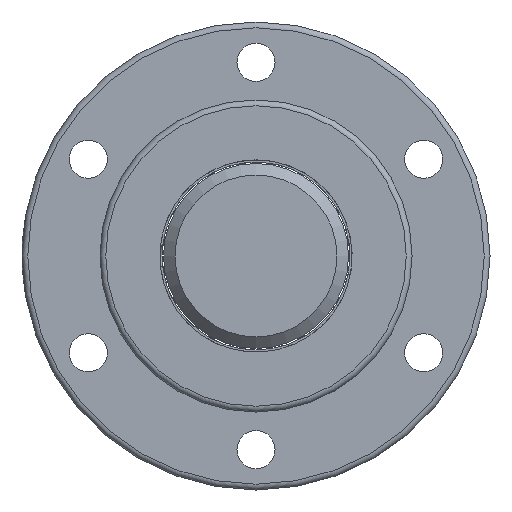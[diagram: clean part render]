
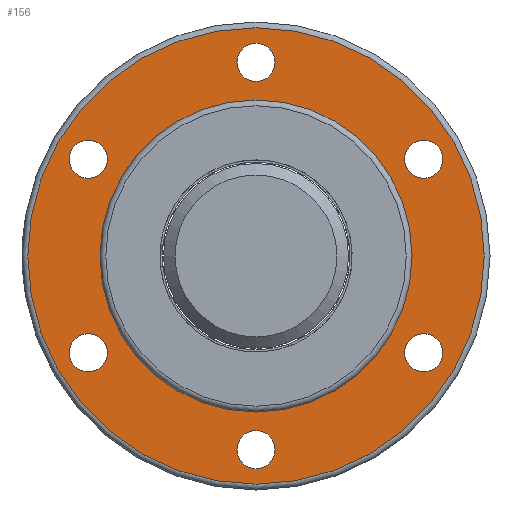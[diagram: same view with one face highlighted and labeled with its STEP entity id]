
A CAD part, left-side view. The second image highlights one B-rep face of the part: STEP entity #156.
In plain terms, the highlighted planar face has unit normal (-1, 0, 0).
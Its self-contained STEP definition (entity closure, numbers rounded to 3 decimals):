
#18 = CARTESIAN_POINT ( 'NONE',  ( 17.5, -31.87, -18.4 ) ) ;
#63 = DIRECTION ( 'NONE',  ( 0., 0., 1. ) ) ;
#70 = EDGE_LOOP ( 'NONE', ( #840 ) ) ;
#138 = DIRECTION ( 'NONE',  ( 1., 0., 0. ) ) ;
#153 = DIRECTION ( 'NONE',  ( 0., -0.866, -0.5 ) ) ;
#156 = ADVANCED_FACE ( 'NONE', ( #2004, #1313, #1759, #1357, #1787, #2241, #2633, #2018 ), #692, .F. ) ;
#167 = EDGE_CURVE ( 'NONE', #397, #397, #2343, .T. ) ;
#205 = AXIS2_PLACEMENT_3D ( 'NONE', #2801, #638, #2817 ) ;
#220 = ORIENTED_EDGE ( 'NONE', *, *, #749, .F. ) ;
#260 = CIRCLE ( 'NONE', #2262, 27. ) ;
#261 = CARTESIAN_POINT ( 'NONE',  ( 17.5, 0., 36.8 ) ) ;
#275 = CARTESIAN_POINT ( 'NONE',  ( 17.5, 0., 0. ) ) ;
#335 = DIRECTION ( 'NONE',  ( -1., 0., 0. ) ) ;
#369 = DIRECTION ( 'NONE',  ( 1., 0., 0. ) ) ;
#397 = VERTEX_POINT ( 'NONE', #2548 ) ;
#412 = EDGE_CURVE ( 'NONE', #605, #605, #1926, .T. ) ;
#509 = AXIS2_PLACEMENT_3D ( 'NONE', #2007, #970, #1792 ) ;
#569 = CIRCLE ( 'NONE', #509, 3.3 ) ;
#605 = VERTEX_POINT ( 'NONE', #1662 ) ;
#632 = CARTESIAN_POINT ( 'NONE',  ( 17.5, 0., -36.8 ) ) ;
#638 = DIRECTION ( 'NONE',  ( 1., 0., 0. ) ) ;
#692 = PLANE ( 'NONE',  #2309 ) ;
#706 = VERTEX_POINT ( 'NONE', #261 ) ;
#729 = EDGE_CURVE ( 'NONE', #2560, #2560, #2760, .T. ) ;
#749 = EDGE_CURVE ( 'NONE', #1248, #1248, #260, .T. ) ;
#832 = AXIS2_PLACEMENT_3D ( 'NONE', #2782, #1212, #2537 ) ;
#840 = ORIENTED_EDGE ( 'NONE', *, *, #2676, .T. ) ;
#866 = EDGE_LOOP ( 'NONE', ( #1166 ) ) ;
#955 = ORIENTED_EDGE ( 'NONE', *, *, #1666, .T. ) ;
#970 = DIRECTION ( 'NONE',  ( 1., 0., 0. ) ) ;
#972 = CIRCLE ( 'NONE', #205, 3.3 ) ;
#1096 = DIRECTION ( 'NONE',  ( 1., 0., 0. ) ) ;
#1166 = ORIENTED_EDGE ( 'NONE', *, *, #2743, .T. ) ;
#1212 = DIRECTION ( 'NONE',  ( 1., 0., 0. ) ) ;
#1248 = VERTEX_POINT ( 'NONE', #1891 ) ;
#1261 = EDGE_LOOP ( 'NONE', ( #1634 ) ) ;
#1286 = VERTEX_POINT ( 'NONE', #18 ) ;
#1313 = FACE_BOUND ( 'NONE', #866, .T. ) ;
#1354 = DIRECTION ( 'NONE',  ( 0., 0.866, 0.5 ) ) ;
#1357 = FACE_OUTER_BOUND ( 'NONE', #1773, .T. ) ;
#1405 = CIRCLE ( 'NONE', #832, 3.3 ) ;
#1434 = CIRCLE ( 'NONE', #2424, 3.3 ) ;
#1501 = CARTESIAN_POINT ( 'NONE',  ( 17.5, 29.012, -16.75 ) ) ;
#1547 = EDGE_LOOP ( 'NONE', ( #1563 ) ) ;
#1563 = ORIENTED_EDGE ( 'NONE', *, *, #412, .T. ) ;
#1618 = DIRECTION ( 'NONE',  ( 0., 0., -1. ) ) ;
#1634 = ORIENTED_EDGE ( 'NONE', *, *, #729, .T. ) ;
#1662 = CARTESIAN_POINT ( 'NONE',  ( 17.5, 31.87, -18.4 ) ) ;
#1666 = EDGE_CURVE ( 'NONE', #2740, #2740, #972, .T. ) ;
#1674 = CARTESIAN_POINT ( 'NONE',  ( 17.5, 0., 0. ) ) ;
#1743 = CARTESIAN_POINT ( 'NONE',  ( 17.5, -31.87, 18.4 ) ) ;
#1759 = FACE_BOUND ( 'NONE', #2755, .T. ) ;
#1771 = CARTESIAN_POINT ( 'NONE',  ( 17.5, 29.012, 16.75 ) ) ;
#1773 = EDGE_LOOP ( 'NONE', ( #2770 ) ) ;
#1787 = FACE_BOUND ( 'NONE', #2692, .T. ) ;
#1792 = DIRECTION ( 'NONE',  ( 0., 0., 1. ) ) ;
#1831 = CARTESIAN_POINT ( 'NONE',  ( 17.5, 27., 0. ) ) ;
#1850 = ORIENTED_EDGE ( 'NONE', *, *, #2721, .T. ) ;
#1864 = EDGE_LOOP ( 'NONE', ( #1850 ) ) ;
#1872 = DIRECTION ( 'NONE',  ( 0., 1., 0. ) ) ;
#1885 = AXIS2_PLACEMENT_3D ( 'NONE', #1771, #2644, #1354 ) ;
#1891 = CARTESIAN_POINT ( 'NONE',  ( 17.5, 0., 27. ) ) ;
#1902 = CARTESIAN_POINT ( 'NONE',  ( 17.5, -29.012, -16.75 ) ) ;
#1926 = CIRCLE ( 'NONE', #2713, 3.3 ) ;
#1946 = VERTEX_POINT ( 'NONE', #1743 ) ;
#2000 = DIRECTION ( 'NONE',  ( -1., 0., 0. ) ) ;
#2004 = FACE_BOUND ( 'NONE', #1261, .T. ) ;
#2007 = CARTESIAN_POINT ( 'NONE',  ( 17.5, 0., 33.5 ) ) ;
#2018 = FACE_BOUND ( 'NONE', #1547, .T. ) ;
#2241 = FACE_BOUND ( 'NONE', #1864, .T. ) ;
#2262 = AXIS2_PLACEMENT_3D ( 'NONE', #275, #2000, #63 ) ;
#2309 = AXIS2_PLACEMENT_3D ( 'NONE', #1831, #138, #1872 ) ;
#2343 = CIRCLE ( 'NONE', #2478, 39.5 ) ;
#2352 = CARTESIAN_POINT ( 'NONE',  ( 17.5, 31.87, 18.4 ) ) ;
#2424 = AXIS2_PLACEMENT_3D ( 'NONE', #1902, #369, #153 ) ;
#2478 = AXIS2_PLACEMENT_3D ( 'NONE', #1674, #335, #1618 ) ;
#2537 = DIRECTION ( 'NONE',  ( 0., -0.866, 0.5 ) ) ;
#2548 = CARTESIAN_POINT ( 'NONE',  ( 17.5, 0., -39.5 ) ) ;
#2560 = VERTEX_POINT ( 'NONE', #2352 ) ;
#2617 = DIRECTION ( 'NONE',  ( 0., 0.866, -0.5 ) ) ;
#2633 = FACE_BOUND ( 'NONE', #70, .T. ) ;
#2644 = DIRECTION ( 'NONE',  ( 1., 0., 0. ) ) ;
#2676 = EDGE_CURVE ( 'NONE', #706, #706, #569, .T. ) ;
#2692 = EDGE_LOOP ( 'NONE', ( #220 ) ) ;
#2713 = AXIS2_PLACEMENT_3D ( 'NONE', #1501, #1096, #2617 ) ;
#2721 = EDGE_CURVE ( 'NONE', #1286, #1286, #1434, .T. ) ;
#2740 = VERTEX_POINT ( 'NONE', #632 ) ;
#2743 = EDGE_CURVE ( 'NONE', #1946, #1946, #1405, .T. ) ;
#2755 = EDGE_LOOP ( 'NONE', ( #955 ) ) ;
#2760 = CIRCLE ( 'NONE', #1885, 3.3 ) ;
#2770 = ORIENTED_EDGE ( 'NONE', *, *, #167, .T. ) ;
#2782 = CARTESIAN_POINT ( 'NONE',  ( 17.5, -29.012, 16.75 ) ) ;
#2801 = CARTESIAN_POINT ( 'NONE',  ( 17.5, 0., -33.5 ) ) ;
#2817 = DIRECTION ( 'NONE',  ( 0., 0., -1. ) ) ;
